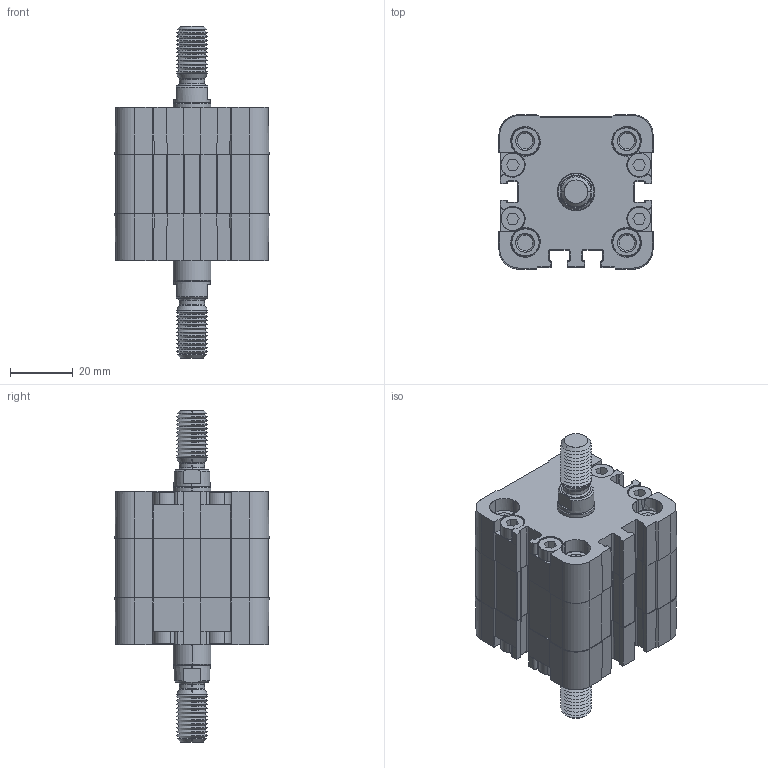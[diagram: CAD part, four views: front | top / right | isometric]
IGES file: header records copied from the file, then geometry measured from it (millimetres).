
Start section: SolidWorks IGES file using analytic representation for surfaces
Global section: file name: W:\_ALTRO\CATALOGO 3D\CYLINDERS\NSK\032\IGES\NSKI 032 P M\NSKI032.0050 M P.IGS; native system: SolidWorks 2009; preprocessor: SolidWorks 2009; author: utente03; date: 110531.171457; units: millimetre
Bounding box: 49.2 x 49.2 x 106 mm (x, y, z)
Surface area: 44433.1 mm2 (no closed solid volume)
Topology: 0 solids, 0 shells, 1212 faces, 11522 edges, 11506 vertices
Faces by surface type: revolution 674, bspline 538
